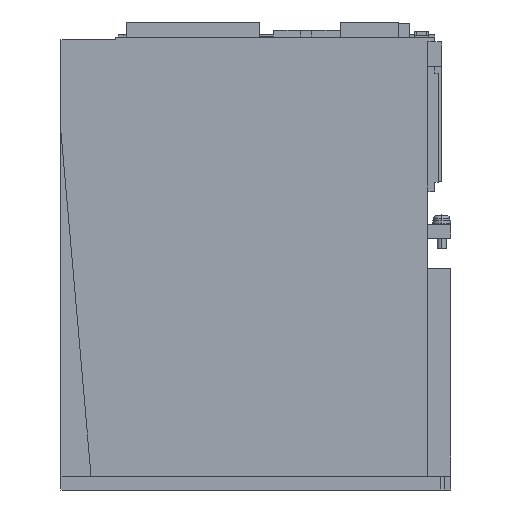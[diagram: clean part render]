
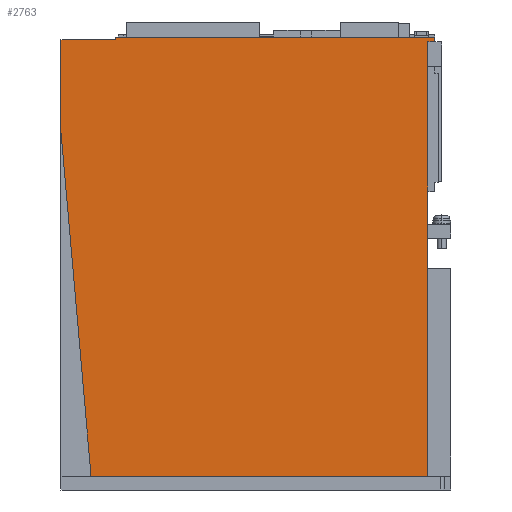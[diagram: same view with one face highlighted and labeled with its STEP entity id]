
A CAD part, left-side view. The second image highlights one B-rep face of the part: STEP entity #2763.
In plain terms, the highlighted planar face has unit normal (-1, 0, 0).
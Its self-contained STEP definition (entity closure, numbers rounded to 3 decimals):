
#882=DIRECTION('',(0.,-1.,0.));
#883=VECTOR('',#882,145.052);
#884=CARTESIAN_POINT('',(-42.5,71.052,0.));
#885=LINE('',#884,#883);
#938=DIRECTION('',(0.,-1.,0.));
#939=VECTOR('',#938,23.472);
#940=CARTESIAN_POINT('',(-42.5,84.,188.));
#941=LINE('',#940,#939);
#942=DIRECTION('',(0.,0.,-1.));
#943=VECTOR('',#942,1.);
#944=CARTESIAN_POINT('',(-42.5,60.528,189.));
#945=LINE('',#944,#943);
#946=DIRECTION('',(0.,0.,1.));
#947=VECTOR('',#946,187.);
#948=CARTESIAN_POINT('',(-42.5,-74.,0.));
#949=LINE('',#948,#947);
#950=DIRECTION('',(0.,0.087,0.996));
#951=VECTOR('',#950,148.565);
#952=CARTESIAN_POINT('',(-42.5,71.052,0.));
#953=LINE('',#952,#951);
#954=DIRECTION('',(0.,0.,1.));
#955=VECTOR('',#954,40.);
#956=CARTESIAN_POINT('',(-42.5,84.,148.));
#957=LINE('',#956,#955);
#1146=DIRECTION('',(0.,0.,-1.));
#1147=VECTOR('',#1146,2.);
#1148=CARTESIAN_POINT('',(-42.5,-77.,189.));
#1149=LINE('',#1148,#1147);
#1354=DIRECTION('',(0.,1.,0.));
#1355=VECTOR('',#1354,137.528);
#1356=CARTESIAN_POINT('',(-42.5,-77.,189.));
#1357=LINE('',#1356,#1355);
#2154=DIRECTION('',(0.,-1.,0.));
#2155=VECTOR('',#2154,3.);
#2156=CARTESIAN_POINT('',(-42.5,-74.,187.));
#2157=LINE('',#2156,#2155);
#2210=CARTESIAN_POINT('',(-42.5,71.052,0.));
#2211=VERTEX_POINT('',#2210);
#2212=CARTESIAN_POINT('',(-42.5,84.,148.));
#2213=VERTEX_POINT('',#2212);
#2216=CARTESIAN_POINT('',(-42.5,-74.,0.));
#2217=VERTEX_POINT('',#2216);
#2250=CARTESIAN_POINT('',(-42.5,-77.,189.));
#2251=CARTESIAN_POINT('',(-42.5,-77.,187.));
#2252=VERTEX_POINT('',#2250);
#2253=VERTEX_POINT('',#2251);
#2270=CARTESIAN_POINT('',(-42.5,-74.,187.));
#2271=VERTEX_POINT('',#2270);
#2600=CARTESIAN_POINT('',(-42.5,60.528,189.));
#2602=VERTEX_POINT('',#2600);
#2608=CARTESIAN_POINT('',(-42.5,84.,188.));
#2609=CARTESIAN_POINT('',(-42.5,60.528,188.));
#2610=VERTEX_POINT('',#2608);
#2611=VERTEX_POINT('',#2609);
#2740=CARTESIAN_POINT('',(-42.5,84.,0.));
#2741=DIRECTION('',(-1.,0.,0.));
#2742=DIRECTION('',(0.,-1.,0.));
#2743=AXIS2_PLACEMENT_3D('',#2740,#2741,#2742);
#2744=PLANE('',#2743);
#2746=ORIENTED_EDGE('',*,*,#2745,.T.);
#2748=ORIENTED_EDGE('',*,*,#2747,.F.);
#2750=ORIENTED_EDGE('',*,*,#2749,.F.);
#2752=ORIENTED_EDGE('',*,*,#2751,.T.);
#2754=ORIENTED_EDGE('',*,*,#2753,.F.);
#2755=ORIENTED_EDGE('',*,*,#2710,.F.);
#2756=ORIENTED_EDGE('',*,*,#2681,.F.);
#2758=ORIENTED_EDGE('',*,*,#2757,.T.);
#2760=ORIENTED_EDGE('',*,*,#2759,.T.);
#2761=EDGE_LOOP('',(#2746,#2748,#2750,#2752,#2754,#2755,#2756,#2758,#2760));
#2762=FACE_OUTER_BOUND('',#2761,.F.);
#2763=ADVANCED_FACE('',(#2762),#2744,.T.);
#2681=EDGE_CURVE('',#2211,#2217,#885,.T.);
#2710=EDGE_CURVE('',#2217,#2271,#949,.T.);
#2745=EDGE_CURVE('',#2610,#2611,#941,.T.);
#2747=EDGE_CURVE('',#2602,#2611,#945,.T.);
#2749=EDGE_CURVE('',#2252,#2602,#1357,.T.);
#2751=EDGE_CURVE('',#2252,#2253,#1149,.T.);
#2753=EDGE_CURVE('',#2271,#2253,#2157,.T.);
#2757=EDGE_CURVE('',#2211,#2213,#953,.T.);
#2759=EDGE_CURVE('',#2213,#2610,#957,.T.);
